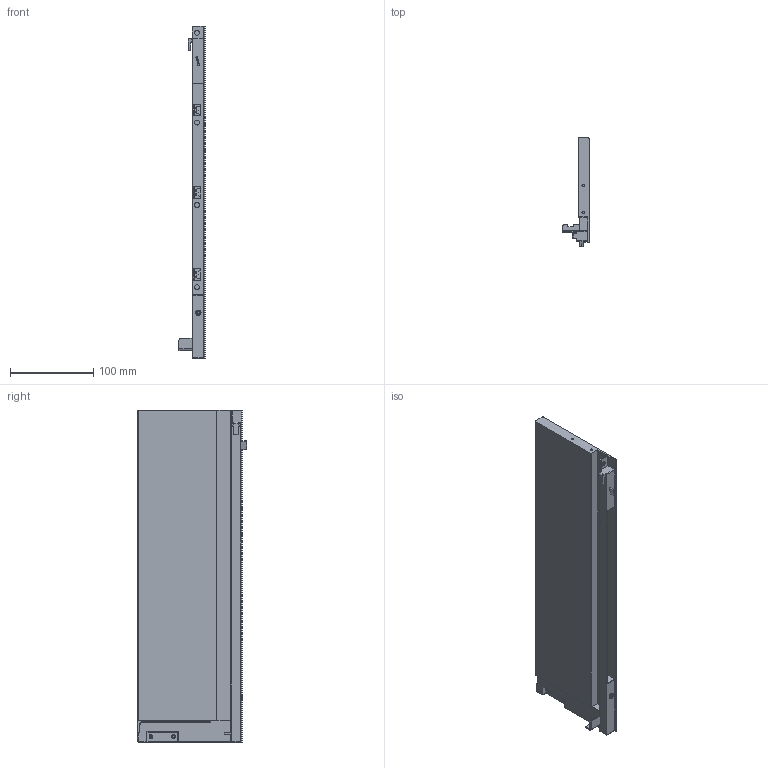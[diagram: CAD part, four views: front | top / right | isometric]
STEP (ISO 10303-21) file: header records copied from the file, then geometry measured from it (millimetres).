
FILE_DESCRIPTION (( 'STEP AP203' ), '1' );
FILE_NAME ('HT124001-R.STEP', '2020-09-14T00:53:46', ( 'Users' ), ( 'Microsoft' ), 'SwSTEP 2.0', 'SolidWorks 2018', '' );
FILE_SCHEMA (( 'CONFIG_CONTROL_DESIGN' ));
Length unit declared in the file: millimetre
Products named in the file (1): HT124001-R
Bounding box: 31.3 x 131 x 399 mm (x, y, z)
Volume: 540477.7 mm3; surface area: 133598.1 mm2
Topology: 1 solids, 8 shells, 402 faces, 1019 edges, 633 vertices
Faces by surface type: plane 199, cylinder 139, torus 29, bspline 23, cone 6, sphere 6
Entity records: 12552 total; most frequent: CARTESIAN_POINT 2950, ORIENTED_EDGE 2020, DIRECTION 1947, EDGE_CURVE 1010, AXIS2_PLACEMENT_3D 660, VERTEX_POINT 633, VECTOR 627, LINE 627
